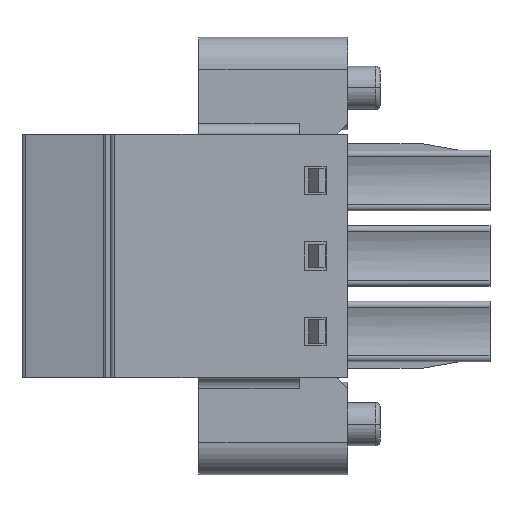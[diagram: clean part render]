
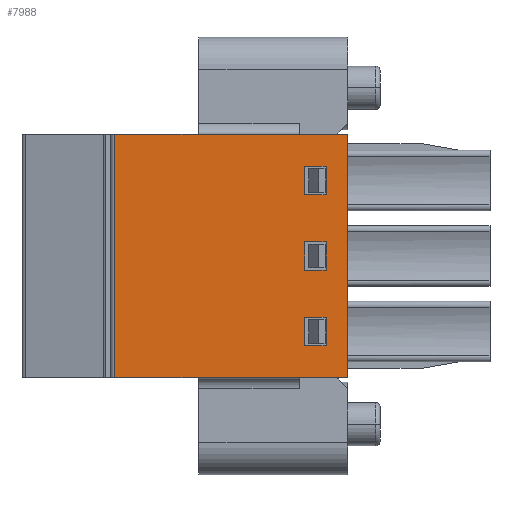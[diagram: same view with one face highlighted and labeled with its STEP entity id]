
A CAD part, front view. The second image highlights one B-rep face of the part: STEP entity #7988.
In plain terms, the highlighted planar face has unit normal (0, -1, 0).
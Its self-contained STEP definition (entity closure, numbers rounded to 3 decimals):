
#458=DIRECTION('',(-1.,0.,0.));
#459=VECTOR('',#458,10.8);
#460=CARTESIAN_POINT('',(15.1,0.,-14.5));
#461=LINE('',#460,#459);
#665=DIRECTION('',(1.,0.,0.));
#666=VECTOR('',#665,10.8);
#667=CARTESIAN_POINT('',(4.3,0.,-25.8));
#668=LINE('',#667,#666);
#1054=DIRECTION('',(0.,0.,-1.));
#1055=VECTOR('',#1054,11.3);
#1056=CARTESIAN_POINT('',(4.3,0.,-14.5));
#1057=LINE('',#1056,#1055);
#1058=DIRECTION('',(0.,0.,-1.));
#1059=VECTOR('',#1058,11.3);
#1060=CARTESIAN_POINT('',(15.1,0.,-14.5));
#1061=LINE('',#1060,#1059);
#1162=DIRECTION('',(1.,0.,0.));
#1163=VECTOR('',#1162,1.);
#1164=CARTESIAN_POINT('',(13.1,0.,-16.));
#1165=LINE('',#1164,#1163);
#1318=DIRECTION('',(0.,0.,-1.));
#1319=VECTOR('',#1318,1.3);
#1320=CARTESIAN_POINT('',(14.1,0.,-16.));
#1321=LINE('',#1320,#1319);
#1330=DIRECTION('',(-1.,0.,0.));
#1331=VECTOR('',#1330,1.);
#1332=CARTESIAN_POINT('',(14.1,0.,-17.3));
#1333=LINE('',#1332,#1331);
#1342=DIRECTION('',(0.,0.,1.));
#1343=VECTOR('',#1342,1.3);
#1344=CARTESIAN_POINT('',(13.1,0.,-17.3));
#1345=LINE('',#1344,#1343);
#1354=DIRECTION('',(1.,0.,0.));
#1355=VECTOR('',#1354,1.);
#1356=CARTESIAN_POINT('',(13.1,0.,-19.5));
#1357=LINE('',#1356,#1355);
#1366=DIRECTION('',(0.,0.,1.));
#1367=VECTOR('',#1366,1.3);
#1368=CARTESIAN_POINT('',(13.1,0.,-20.8));
#1369=LINE('',#1368,#1367);
#1378=DIRECTION('',(-1.,0.,0.));
#1379=VECTOR('',#1378,1.);
#1380=CARTESIAN_POINT('',(14.1,0.,-20.8));
#1381=LINE('',#1380,#1379);
#1390=DIRECTION('',(0.,0.,-1.));
#1391=VECTOR('',#1390,1.3);
#1392=CARTESIAN_POINT('',(14.1,0.,-19.5));
#1393=LINE('',#1392,#1391);
#1402=DIRECTION('',(1.,0.,0.));
#1403=VECTOR('',#1402,1.);
#1404=CARTESIAN_POINT('',(13.1,0.,-23.));
#1405=LINE('',#1404,#1403);
#1414=DIRECTION('',(0.,0.,1.));
#1415=VECTOR('',#1414,1.3);
#1416=CARTESIAN_POINT('',(13.1,0.,-24.3));
#1417=LINE('',#1416,#1415);
#1426=DIRECTION('',(-1.,0.,0.));
#1427=VECTOR('',#1426,1.);
#1428=CARTESIAN_POINT('',(14.1,0.,-24.3));
#1429=LINE('',#1428,#1427);
#1438=DIRECTION('',(0.,0.,-1.));
#1439=VECTOR('',#1438,1.3);
#1440=CARTESIAN_POINT('',(14.1,0.,-23.));
#1441=LINE('',#1440,#1439);
#5064=CARTESIAN_POINT('',(15.1,0.,-14.5));
#5065=CARTESIAN_POINT('',(15.1,0.,-25.8));
#5066=VERTEX_POINT('',#5064);
#5067=VERTEX_POINT('',#5065);
#5080=CARTESIAN_POINT('',(4.3,0.,-14.5));
#5081=CARTESIAN_POINT('',(4.3,0.,-25.8));
#5082=VERTEX_POINT('',#5080);
#5083=VERTEX_POINT('',#5081);
#5084=CARTESIAN_POINT('',(13.1,0.,-16.));
#5085=CARTESIAN_POINT('',(14.1,0.,-16.));
#5086=VERTEX_POINT('',#5084);
#5087=VERTEX_POINT('',#5085);
#5088=CARTESIAN_POINT('',(13.1,0.,-17.3));
#5089=VERTEX_POINT('',#5088);
#5090=CARTESIAN_POINT('',(14.1,0.,-17.3));
#5091=VERTEX_POINT('',#5090);
#5092=CARTESIAN_POINT('',(13.1,0.,-19.5));
#5093=CARTESIAN_POINT('',(14.1,0.,-19.5));
#5094=VERTEX_POINT('',#5092);
#5095=VERTEX_POINT('',#5093);
#5096=CARTESIAN_POINT('',(13.1,0.,-20.8));
#5097=VERTEX_POINT('',#5096);
#5098=CARTESIAN_POINT('',(14.1,0.,-20.8));
#5099=VERTEX_POINT('',#5098);
#5100=CARTESIAN_POINT('',(13.1,0.,-23.));
#5101=CARTESIAN_POINT('',(14.1,0.,-23.));
#5102=VERTEX_POINT('',#5100);
#5103=VERTEX_POINT('',#5101);
#5104=CARTESIAN_POINT('',(13.1,0.,-24.3));
#5105=VERTEX_POINT('',#5104);
#5106=CARTESIAN_POINT('',(14.1,0.,-24.3));
#5107=VERTEX_POINT('',#5106);
#7946=CARTESIAN_POINT('',(4.1,0.,-25.4));
#7947=DIRECTION('',(0.,-1.,0.));
#7948=DIRECTION('',(1.,0.,0.));
#7949=AXIS2_PLACEMENT_3D('',#7946,#7947,#7948);
#7950=PLANE('',#7949);
#7951=ORIENTED_EDGE('',*,*,#7940,.F.);
#7952=ORIENTED_EDGE('',*,*,#7053,.F.);
#7954=ORIENTED_EDGE('',*,*,#7953,.T.);
#7955=ORIENTED_EDGE('',*,*,#7336,.F.);
#7956=EDGE_LOOP('',(#7951,#7952,#7954,#7955));
#7957=FACE_OUTER_BOUND('',#7956,.F.);
#7959=ORIENTED_EDGE('',*,*,#7958,.F.);
#7961=ORIENTED_EDGE('',*,*,#7960,.F.);
#7963=ORIENTED_EDGE('',*,*,#7962,.F.);
#7965=ORIENTED_EDGE('',*,*,#7964,.F.);
#7966=EDGE_LOOP('',(#7959,#7961,#7963,#7965));
#7967=FACE_BOUND('',#7966,.F.);
#7969=ORIENTED_EDGE('',*,*,#7968,.F.);
#7971=ORIENTED_EDGE('',*,*,#7970,.F.);
#7973=ORIENTED_EDGE('',*,*,#7972,.F.);
#7975=ORIENTED_EDGE('',*,*,#7974,.F.);
#7976=EDGE_LOOP('',(#7969,#7971,#7973,#7975));
#7977=FACE_BOUND('',#7976,.F.);
#7979=ORIENTED_EDGE('',*,*,#7978,.F.);
#7981=ORIENTED_EDGE('',*,*,#7980,.F.);
#7983=ORIENTED_EDGE('',*,*,#7982,.F.);
#7985=ORIENTED_EDGE('',*,*,#7984,.F.);
#7986=EDGE_LOOP('',(#7979,#7981,#7983,#7985));
#7987=FACE_BOUND('',#7986,.F.);
#7988=ADVANCED_FACE('',(#7957,#7967,#7977,#7987),#7950,.T.);
#7053=EDGE_CURVE('',#5066,#5082,#461,.T.);
#7336=EDGE_CURVE('',#5083,#5067,#668,.T.);
#7940=EDGE_CURVE('',#5082,#5083,#1057,.T.);
#7953=EDGE_CURVE('',#5066,#5067,#1061,.T.);
#7958=EDGE_CURVE('',#5086,#5087,#1165,.T.);
#7960=EDGE_CURVE('',#5089,#5086,#1345,.T.);
#7962=EDGE_CURVE('',#5091,#5089,#1333,.T.);
#7964=EDGE_CURVE('',#5087,#5091,#1321,.T.);
#7968=EDGE_CURVE('',#5094,#5095,#1357,.T.);
#7970=EDGE_CURVE('',#5097,#5094,#1369,.T.);
#7972=EDGE_CURVE('',#5099,#5097,#1381,.T.);
#7974=EDGE_CURVE('',#5095,#5099,#1393,.T.);
#7978=EDGE_CURVE('',#5102,#5103,#1405,.T.);
#7980=EDGE_CURVE('',#5105,#5102,#1417,.T.);
#7982=EDGE_CURVE('',#5107,#5105,#1429,.T.);
#7984=EDGE_CURVE('',#5103,#5107,#1441,.T.);
